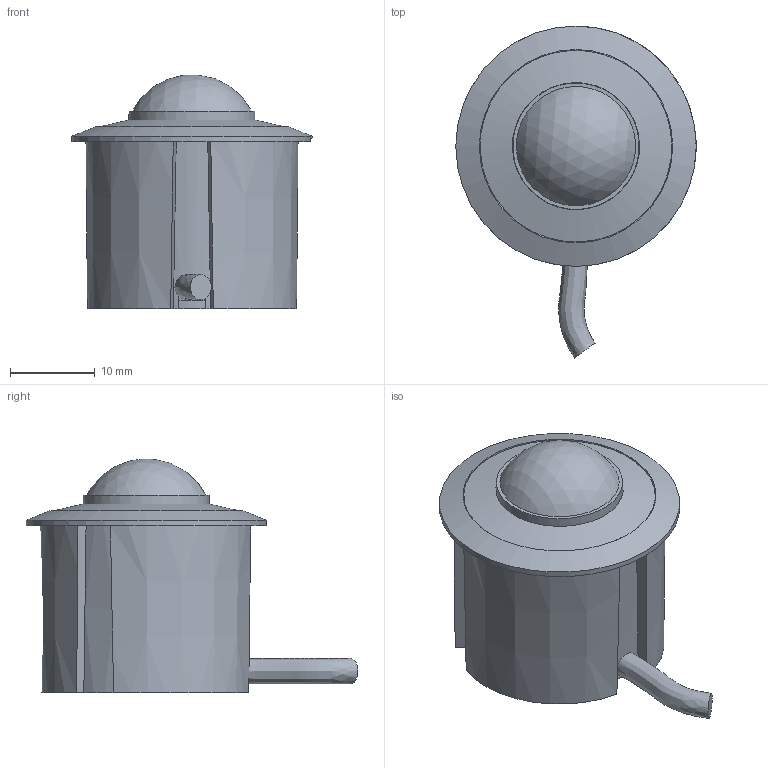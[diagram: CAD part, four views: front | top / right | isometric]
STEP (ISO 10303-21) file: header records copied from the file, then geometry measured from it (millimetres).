
FILE_DESCRIPTION(/* description */ ('Unknown'),/* implementation_level */ '2;1');
FILE_NAME(/* name */ 'CS_Mini_ASM_simple',/* time_stamp */ '2021-09-24T14:01:46+02:00',/* author */ ('Unknown'),/* organization */ ('Unknown'),/* preprocessor_version */ 'ST-DEVELOPER v16.7',/* originating_system */ 'DEX',/* authorisation */ $);
FILE_SCHEMA (('CONFIG_CONTROL_DESIGN'));
Length unit declared in the file: millimetre
Products named in the file (1): CS_Mini_ASM_simple
Bounding box: 28.34 x 39.11 x 27.58 mm (x, y, z)
Volume: 11043.2 mm3; surface area: 3490.2 mm2
Topology: 1 solids, 1 shells, 35 faces, 84 edges, 55 vertices
Faces by surface type: plane 17, cylinder 10, cone 5, sphere 1, torus 1, bspline 1
Full cylindrical faces by diameter (mm): 14.9 x1, 15 x1, 22.602 x1, 22.797 x1, 28.34 x1
Entity records: 1627 total; most frequent: CARTESIAN_POINT 551, DIRECTION 188, ORIENTED_EDGE 144, AXIS2_PLACEMENT_3D 83, EDGE_CURVE 72, VERTEX_POINT 52, EDGE_LOOP 48, FACE_BOUND 48
